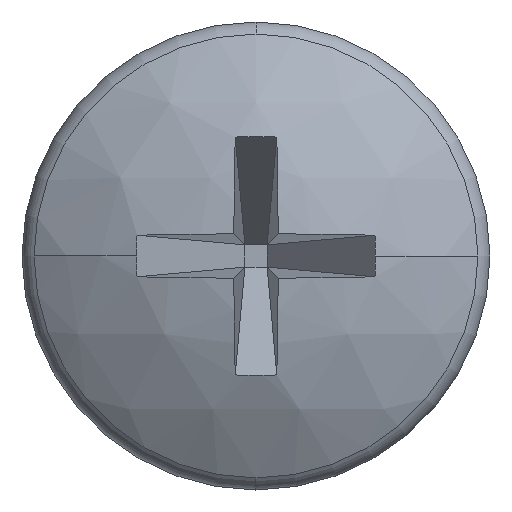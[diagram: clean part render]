
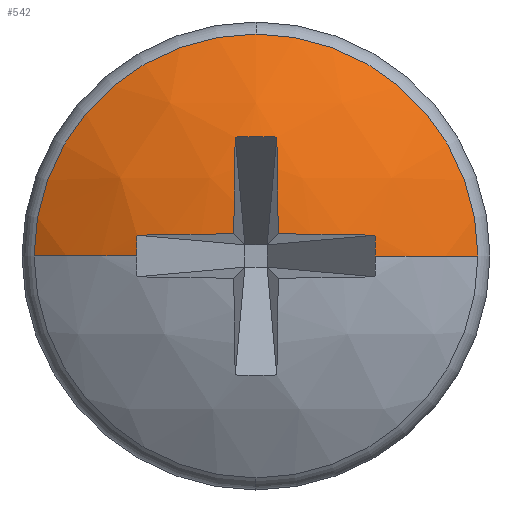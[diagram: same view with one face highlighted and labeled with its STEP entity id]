
A CAD part, left-side view. The second image highlights one B-rep face of the part: STEP entity #542.
In plain terms, the highlighted spherical face has radius 10 mm.
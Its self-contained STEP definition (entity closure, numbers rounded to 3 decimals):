
#11 = CARTESIAN_POINT ( 'NONE',  ( 0.48, -3.06, 0. ) ) ;
#38 = CARTESIAN_POINT ( 'NONE',  ( 0.48, 3.06, 0. ) ) ;
#55 = SPHERICAL_SURFACE ( 'NONE', #62, 10. ) ;
#60 = CARTESIAN_POINT ( 'NONE',  ( 10., 0., 0. ) ) ;
#61 = DIRECTION ( 'NONE',  ( 0., 0., -1. ) ) ;
#62 = AXIS2_PLACEMENT_3D ( 'NONE', #60, #61, #63 ) ;
#63 = DIRECTION ( 'NONE',  ( 0., 1., 0. ) ) ;
#115 = CIRCLE ( 'NONE', #140, 9.998 ) ;
#131 = DIRECTION ( 'NONE',  ( 0.768, 0.64, 0. ) ) ;
#132 = DIRECTION ( 'NONE',  ( 0.64, -0.768, 0. ) ) ;
#133 = CARTESIAN_POINT ( 'NONE',  ( 7.603, 2.876, 0. ) ) ;
#134 = AXIS2_PLACEMENT_3D ( 'NONE', #133, #132, #131 ) ;
#135 = CIRCLE ( 'NONE', #134, 9.273 ) ;
#136 = CARTESIAN_POINT ( 'NONE',  ( 0.492, -3.05, 0.533 ) ) ;
#137 = DIRECTION ( 'NONE',  ( -0.997, 0., 0.075 ) ) ;
#138 = DIRECTION ( 'NONE',  ( -0.075, 0., -0.997 ) ) ;
#139 = CARTESIAN_POINT ( 'NONE',  ( 9.987, 0., -0.177 ) ) ;
#140 = AXIS2_PLACEMENT_3D ( 'NONE', #139, #138, #137 ) ;
#148 = DIRECTION ( 'NONE',  ( 0., 0., -1. ) ) ;
#149 = CARTESIAN_POINT ( 'NONE',  ( 10., 0., 0. ) ) ;
#150 = AXIS2_PLACEMENT_3D ( 'NONE', #149, #148, #214 ) ;
#151 = CIRCLE ( 'NONE', #150, 10. ) ;
#171 = CARTESIAN_POINT ( 'NONE',  ( 0.032, -0.568, 0.568 ) ) ;
#172 = DIRECTION ( 'NONE',  ( -0.997, -0.075, 0. ) ) ;
#173 = DIRECTION ( 'NONE',  ( -0.075, 0.997, 0. ) ) ;
#174 = CARTESIAN_POINT ( 'NONE',  ( 9.987, 0.177, 0. ) ) ;
#175 = AXIS2_PLACEMENT_3D ( 'NONE', #174, #173, #172 ) ;
#176 = CIRCLE ( 'NONE', #175, 9.998 ) ;
#177 = CARTESIAN_POINT ( 'NONE',  ( 0.492, -0.533, 3.05 ) ) ;
#178 = DIRECTION ( 'NONE',  ( 0.768, 0., -0.64 ) ) ;
#179 = DIRECTION ( 'NONE',  ( 0.64, 0., 0.768 ) ) ;
#180 = CARTESIAN_POINT ( 'NONE',  ( 7.603, 0., -2.876 ) ) ;
#181 = AXIS2_PLACEMENT_3D ( 'NONE', #180, #179, #178 ) ;
#182 = CIRCLE ( 'NONE', #181, 9.273 ) ;
#206 = CIRCLE ( 'NONE', #252, 9.998 ) ;
#207 = CARTESIAN_POINT ( 'NONE',  ( 0.032, 0.568, 0.568 ) ) ;
#208 = CARTESIAN_POINT ( 'NONE',  ( 0.492, 3.05, 0.533 ) ) ;
#209 = DIRECTION ( 'NONE',  ( -0.768, 0.64, 0. ) ) ;
#210 = DIRECTION ( 'NONE',  ( 0.64, 0.768, 0. ) ) ;
#211 = CARTESIAN_POINT ( 'NONE',  ( 7.603, -2.876, 0. ) ) ;
#212 = AXIS2_PLACEMENT_3D ( 'NONE', #211, #210, #209 ) ;
#213 = CIRCLE ( 'NONE', #212, 9.273 ) ;
#214 = DIRECTION ( 'NONE',  ( 0., 1., 0. ) ) ;
#220 = DIRECTION ( 'NONE',  ( 0., 0., 1. ) ) ;
#221 = DIRECTION ( 'NONE',  ( -1., 0., 0. ) ) ;
#222 = CARTESIAN_POINT ( 'NONE',  ( 1.776, 0., 0. ) ) ;
#223 = AXIS2_PLACEMENT_3D ( 'NONE', #222, #221, #220 ) ;
#224 = CIRCLE ( 'NONE', #223, 5.69 ) ;
#243 = CARTESIAN_POINT ( 'NONE',  ( 0.492, 0.533, 3.05 ) ) ;
#244 = DIRECTION ( 'NONE',  ( 0.997, -0.075, 0. ) ) ;
#245 = DIRECTION ( 'NONE',  ( -0.075, -0.997, 0. ) ) ;
#246 = CARTESIAN_POINT ( 'NONE',  ( 9.987, -0.177, 0. ) ) ;
#247 = AXIS2_PLACEMENT_3D ( 'NONE', #246, #245, #244 ) ;
#248 = CIRCLE ( 'NONE', #247, 9.998 ) ;
#249 = DIRECTION ( 'NONE',  ( -0.997, 0., 0.075 ) ) ;
#250 = DIRECTION ( 'NONE',  ( -0.075, 0., -0.997 ) ) ;
#251 = CARTESIAN_POINT ( 'NONE',  ( 9.987, 0., -0.177 ) ) ;
#252 = AXIS2_PLACEMENT_3D ( 'NONE', #251, #250, #249 ) ;
#261 = FACE_OUTER_BOUND ( 'NONE', #543, .T. ) ;
#262 = DIRECTION ( 'NONE',  ( 1., 0., 0. ) ) ;
#284 = DIRECTION ( 'NONE',  ( 0., 0., 1. ) ) ;
#285 = CARTESIAN_POINT ( 'NONE',  ( 10., 0., 0. ) ) ;
#286 = AXIS2_PLACEMENT_3D ( 'NONE', #285, #284, #262 ) ;
#287 = CIRCLE ( 'NONE', #286, 10. ) ;
#306 = VERTEX_POINT ( 'NONE', #426 ) ;
#329 = VERTEX_POINT ( 'NONE', #577 ) ;
#331 = EDGE_CURVE ( 'NONE', #332, #329, #578, .T. ) ;
#332 = VERTEX_POINT ( 'NONE', #568 ) ;
#348 = ORIENTED_EDGE ( 'NONE', *, *, #374, .F. ) ;
#349 = ORIENTED_EDGE ( 'NONE', *, *, #350, .T. ) ;
#350 = EDGE_CURVE ( 'NONE', #306, #332, #224, .T. ) ;
#351 = ORIENTED_EDGE ( 'NONE', *, *, #331, .T. ) ;
#357 = ORIENTED_EDGE ( 'NONE', *, *, #358, .T. ) ;
#358 = EDGE_CURVE ( 'NONE', #385, #359, #182, .T. ) ;
#359 = VERTEX_POINT ( 'NONE', #177 ) ;
#360 = ORIENTED_EDGE ( 'NONE', *, *, #361, .F. ) ;
#361 = EDGE_CURVE ( 'NONE', #362, #359, #176, .T. ) ;
#362 = VERTEX_POINT ( 'NONE', #171 ) ;
#363 = ORIENTED_EDGE ( 'NONE', *, *, #518, .F. ) ;
#374 = EDGE_CURVE ( 'NONE', #306, #418, #151, .T. ) ;
#376 = ORIENTED_EDGE ( 'NONE', *, *, #541, .T. ) ;
#377 = ORIENTED_EDGE ( 'NONE', *, *, #378, .T. ) ;
#378 = EDGE_CURVE ( 'NONE', #421, #379, #213, .T. ) ;
#379 = VERTEX_POINT ( 'NONE', #208 ) ;
#380 = ORIENTED_EDGE ( 'NONE', *, *, #382, .F. ) ;
#381 = VERTEX_POINT ( 'NONE', #207 ) ;
#382 = EDGE_CURVE ( 'NONE', #381, #379, #206, .T. ) ;
#383 = ORIENTED_EDGE ( 'NONE', *, *, #384, .F. ) ;
#384 = EDGE_CURVE ( 'NONE', #385, #381, #248, .T. ) ;
#385 = VERTEX_POINT ( 'NONE', #243 ) ;
#418 = VERTEX_POINT ( 'NONE', #11 ) ;
#421 = VERTEX_POINT ( 'NONE', #38 ) ;
#426 = CARTESIAN_POINT ( 'NONE',  ( 1.776, -5.69, 0. ) ) ;
#518 = EDGE_CURVE ( 'NONE', #519, #362, #115, .T. ) ;
#519 = VERTEX_POINT ( 'NONE', #136 ) ;
#520 = ORIENTED_EDGE ( 'NONE', *, *, #521, .T. ) ;
#521 = EDGE_CURVE ( 'NONE', #519, #418, #135, .T. ) ;
#541 = EDGE_CURVE ( 'NONE', #329, #421, #287, .T. ) ;
#542 = ADVANCED_FACE ( 'NONE', ( #261 ), #55, .T. ) ;
#543 = EDGE_LOOP ( 'NONE', ( #348, #349, #351, #376, #377, #380, #383, #357, #360, #363, #520 ) ) ;
#568 = CARTESIAN_POINT ( 'NONE',  ( 1.776, 0., 5.69 ) ) ;
#569 = DIRECTION ( 'NONE',  ( 0., 0., 1. ) ) ;
#577 = CARTESIAN_POINT ( 'NONE',  ( 1.776, 5.69, 0. ) ) ;
#578 = CIRCLE ( 'NONE', #581, 5.69 ) ;
#579 = DIRECTION ( 'NONE',  ( -1., 0., 0. ) ) ;
#580 = CARTESIAN_POINT ( 'NONE',  ( 1.776, 0., 0. ) ) ;
#581 = AXIS2_PLACEMENT_3D ( 'NONE', #580, #579, #569 ) ;
